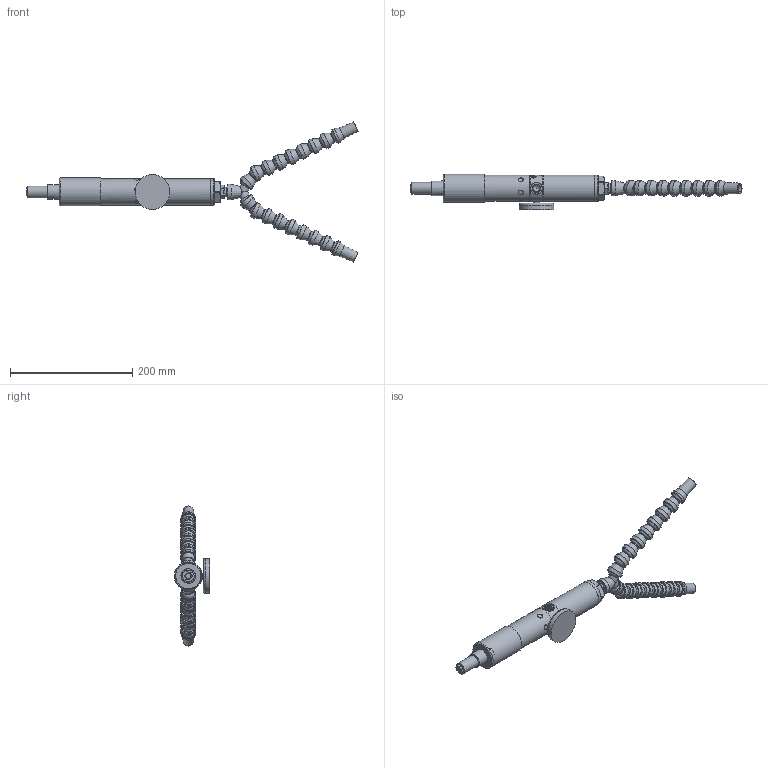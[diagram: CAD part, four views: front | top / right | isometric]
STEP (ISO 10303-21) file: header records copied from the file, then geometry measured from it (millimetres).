
FILE_DESCRIPTION (( 'STEP AP214' ), '1' );
FILE_NAME ('SIMP - CS_15 YR.STEP', '2023-06-02T09:52:15', ( '' ), ( '' ), 'SwSTEP 2.0', 'SolidWorks 2021', '' );
FILE_SCHEMA (( 'AUTOMOTIVE_DESIGN' ));
Length unit declared in the file: millimetre
Products named in the file (1): SIMP - CS_15 YR
Bounding box: 543.22 x 57.97 x 229.18 mm (x, y, z)
Volume: 501695.7 mm3; surface area: 131385 mm2
Topology: 23 solids, 26 shells, 981 faces, 2419 edges, 1549 vertices
Faces by surface type: plane 338, bspline 298, cylinder 211, cone 73, torus 61
Full cylindrical faces by diameter (mm): 3.2 x1, 3.3 x1, 4 x1, 6 x1, 6.5 x1, 7 x1, 8 x6, 9 x1, 9.4 x1, 9.5 x1, 10 x1, 11.8 x7, 12 x2, 12.2 x1, 12.3 x16, 13.16 x1, 14.2 x1, 16 x2, 16.2 x1, 16.3 x16, 19 x1, 19.3 x1, 21 x19, 23.9 x1, 25 x19, 43 x6, 46 x1, 57 x1
Entity records: 62099 total; most frequent: CARTESIAN_POINT 32004, ORIENTED_EDGE 4220, DIRECTION 3006, EDGE_CURVE 2110, VERTEX_POINT 1483, EDGE_LOOP 1331, AXIS2_PLACEMENT_3D 1281, FACE_OUTER_BOUND 1143
